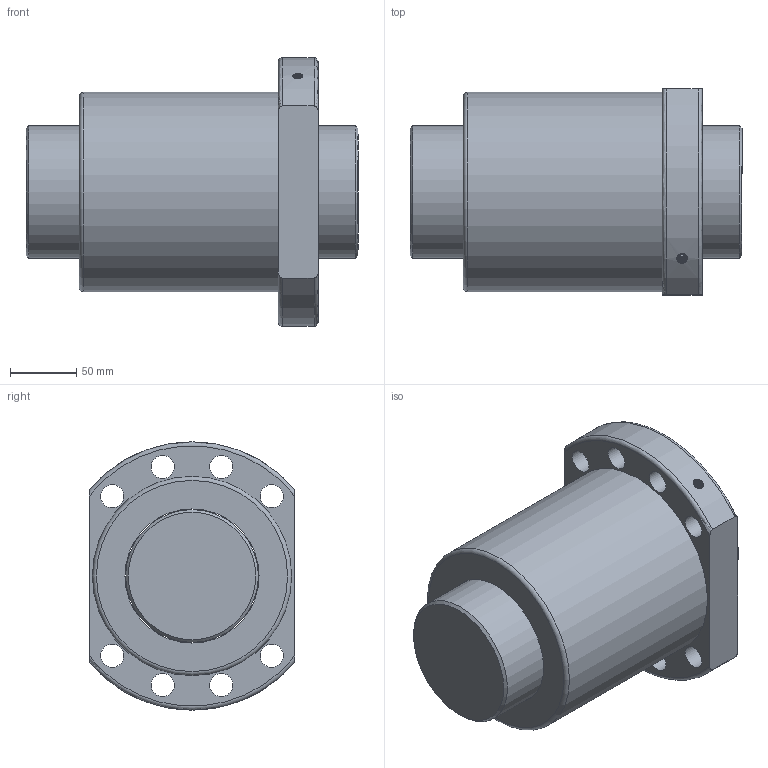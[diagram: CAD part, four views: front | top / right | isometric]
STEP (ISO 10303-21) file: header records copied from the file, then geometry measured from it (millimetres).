
FILE_DESCRIPTION (( 'STEP AP203' ), '1' );
FILE_NAME ('SFU010020-4.stp.STEP', '2023-08-16T01:35:07', ( '' ), ( '' ), 'SwSTEP 2.0', 'SolidWorks 2022', '' );
FILE_SCHEMA (( 'CONFIG_CONTROL_DESIGN' ));
Length unit declared in the file: millimetre
Products named in the file (1): SFU010020-4.stp
Bounding box: 250 x 155 x 202 mm (x, y, z)
Volume: 3945395.3 mm3; surface area: 288412.7 mm2
Topology: 2 solids, 2 shells, 33 faces, 79 edges, 51 vertices
Faces by surface type: cylinder 16, plane 8, torus 5, cone 2, bspline 2
Full cylindrical faces by diameter (mm): 6.917 x1, 17.5 x8, 100 x1, 101 x1, 150 x1
Entity records: 3217 total; most frequent: CARTESIAN_POINT 2414, DIRECTION 144, ORIENTED_EDGE 126, EDGE_LOOP 69, AXIS2_PLACEMENT_3D 68, EDGE_CURVE 63, VERTEX_POINT 50, FACE_OUTER_BOUND 46
